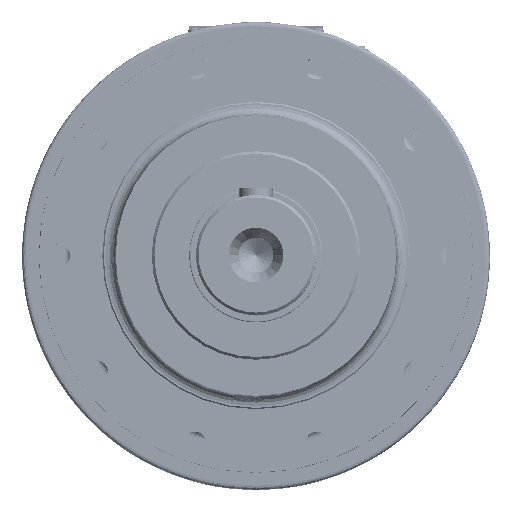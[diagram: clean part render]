
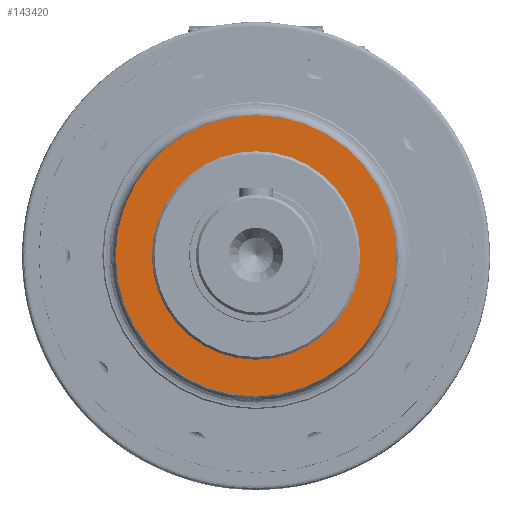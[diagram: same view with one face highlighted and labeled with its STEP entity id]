
A CAD part, top view. The second image highlights one B-rep face of the part: STEP entity #143420.
In plain terms, the highlighted planar face has unit normal (0, 0, 1).
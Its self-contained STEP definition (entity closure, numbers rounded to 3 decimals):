
#45250 = DIRECTION ( 'NONE',  ( 0., -1., 0. ) ) ;
#45276 = CARTESIAN_POINT ( 'NONE',  ( 0., 105., 181. ) ) ;
#45283 = PLANE ( 'NONE',  #319717 ) ;
#45368 = DIRECTION ( 'NONE',  ( 0., 0., 1. ) ) ;
#64618 = VERTEX_POINT ( 'NONE', #202094 ) ;
#64621 = VERTEX_POINT ( 'NONE', #202125 ) ;
#64715 = VERTEX_POINT ( 'NONE', #75491 ) ;
#64775 = VERTEX_POINT ( 'NONE', #70208 ) ;
#70208 = CARTESIAN_POINT ( 'NONE',  ( 0., -78., 181. ) ) ;
#75491 = CARTESIAN_POINT ( 'NONE',  ( 0., -105., 181. ) ) ;
#88876 = ORIENTED_EDGE ( 'NONE', *, *, #105325, .T. ) ;
#88932 = ORIENTED_EDGE ( 'NONE', *, *, #105150, .T. ) ;
#89000 = ORIENTED_EDGE ( 'NONE', *, *, #105100, .F. ) ;
#89077 = ORIENTED_EDGE ( 'NONE', *, *, #105357, .F. ) ;
#105100 = EDGE_CURVE ( 'NONE', #64618, #64715, #289168, .T. ) ;
#105150 = EDGE_CURVE ( 'NONE', #64621, #64775, #194174, .T. ) ;
#105325 = EDGE_CURVE ( 'NONE', #64775, #64621, #194721, .T. ) ;
#105357 = EDGE_CURVE ( 'NONE', #64715, #64618, #194807, .T. ) ;
#143420 = ADVANCED_FACE ( 'NONE', ( #341011, #341045 ), #45283, .T. ) ;
#150179 = EDGE_LOOP ( 'NONE', ( #88932, #88876 ) ) ;
#150287 = EDGE_LOOP ( 'NONE', ( #89000, #89077 ) ) ;
#189833 = CARTESIAN_POINT ( 'NONE',  ( 0., 0., 181. ) ) ;
#189837 = DIRECTION ( 'NONE',  ( 0., 1., 0. ) ) ;
#189846 = DIRECTION ( 'NONE',  ( 0., 0., -1. ) ) ;
#190117 = DIRECTION ( 'NONE',  ( 0., 1., 0. ) ) ;
#190129 = CARTESIAN_POINT ( 'NONE',  ( 0., 0., 181. ) ) ;
#190136 = DIRECTION ( 'NONE',  ( 0., 0., -1. ) ) ;
#191655 = CARTESIAN_POINT ( 'NONE',  ( 0., 0., 181. ) ) ;
#191680 = DIRECTION ( 'NONE',  ( 0., 0., -1. ) ) ;
#191713 = DIRECTION ( 'NONE',  ( 0., 1., 0. ) ) ;
#191940 = DIRECTION ( 'NONE',  ( 0., 1., 0. ) ) ;
#192056 = CARTESIAN_POINT ( 'NONE',  ( 0., 0., 181. ) ) ;
#192072 = DIRECTION ( 'NONE',  ( 0., 0., -1. ) ) ;
#194174 = CIRCLE ( 'NONE', #286252, 78. ) ;
#194721 = CIRCLE ( 'NONE', #286282, 78. ) ;
#194807 = CIRCLE ( 'NONE', #286357, 105. ) ;
#202094 = CARTESIAN_POINT ( 'NONE',  ( 0., 105., 181. ) ) ;
#202125 = CARTESIAN_POINT ( 'NONE',  ( 0., 78., 181. ) ) ;
#286175 = AXIS2_PLACEMENT_3D ( 'NONE', #189833, #189846, #189837 ) ;
#286252 = AXIS2_PLACEMENT_3D ( 'NONE', #190129, #190136, #190117 ) ;
#286282 = AXIS2_PLACEMENT_3D ( 'NONE', #191655, #191680, #191713 ) ;
#286357 = AXIS2_PLACEMENT_3D ( 'NONE', #192056, #192072, #191940 ) ;
#289168 = CIRCLE ( 'NONE', #286175, 105. ) ;
#319717 = AXIS2_PLACEMENT_3D ( 'NONE', #45276, #45368, #45250 ) ;
#341011 = FACE_OUTER_BOUND ( 'NONE', #150287, .T. ) ;
#341045 = FACE_BOUND ( 'NONE', #150179, .T. ) ;
